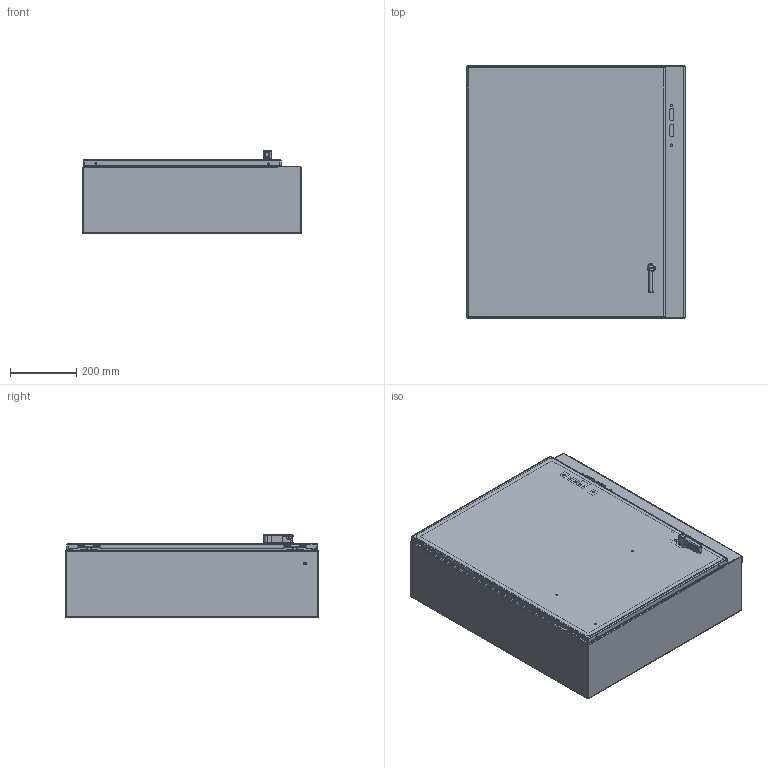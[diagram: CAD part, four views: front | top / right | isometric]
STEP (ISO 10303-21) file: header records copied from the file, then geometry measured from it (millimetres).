
FILE_DESCRIPTION (( 'STEP AP203' ), '1' );
FILE_NAME ('cdsc30268.STEP', '2020-02-13T22:45:34', ( '' ), ( '' ), 'SwSTEP 2.0', 'SolidWorks 2016', '' );
FILE_SCHEMA (( 'CONFIG_CONTROL_DESIGN' ));
Length unit declared in the file: inch
Products named in the file (38): 87541995; 89131630; 64144001; 87415911_Locked; 89082726; 64103001; 64157001_Locked; 87931362_87931362; 89173484; 87938416_fip; 87938373; 99401225; 64207001; 64208001; 89173485; 89123199; 99411612; 99411839_99411839; 87540678; 99411834; 23271001_After Weld; 87932266; 87938432; 89175157_89175157; 87543027; 87784879_CWHPTO; 22101011; 64206005; 64205001; 89076399; 79410_LOCKED; 64212003; 89076193; cdsc30268; 89123196; 64210001; 87938393_assy; 87756323
Assembly tree (53 placements, depth 5):
  cdsc30268
    89082726
      87756323
      23271001_After Weld  x4
      99401225
    87543027  x2
    89076399  x2
      89076193
      89131630
    87938393_assy
      87938416_fip
        87938373
        99401225  x3
        87931362_87931362  x2
      87415911_Locked
        64157001_Locked
          87540678
          64210001
          64208001
          64205001  x2
          87541995
          87932266
        64103001  x2
        64206005
        64207001
        99411834  x2
        64212003
        64144001
        99411612  x2
      87938432
      22101011  x2
      99411839_99411839  x2
      89173484
      89173485
      89175157_89175157  x2
    87784879_CWHPTO
      79410_LOCKED
    89123199
      89123196
Bounding box: 659.13 x 762 x 251.76 mm (x, y, z)
Volume: 2917553.8 mm3; surface area: 3621182 mm2
Topology: 49 solids, 49 shells, 3430 faces, 8925 edges, 5626 vertices
Faces by surface type: plane 1592, cylinder 967, bspline 543, torus 173, cone 99, sphere 56
Entity records: 94588 total; most frequent: CARTESIAN_POINT 34189, ORIENTED_EDGE 12302, DIRECTION 10600, EDGE_CURVE 6151, VERTEX_POINT 3903, AXIS2_PLACEMENT_3D 3547, LINE 3506, VECTOR 3506
